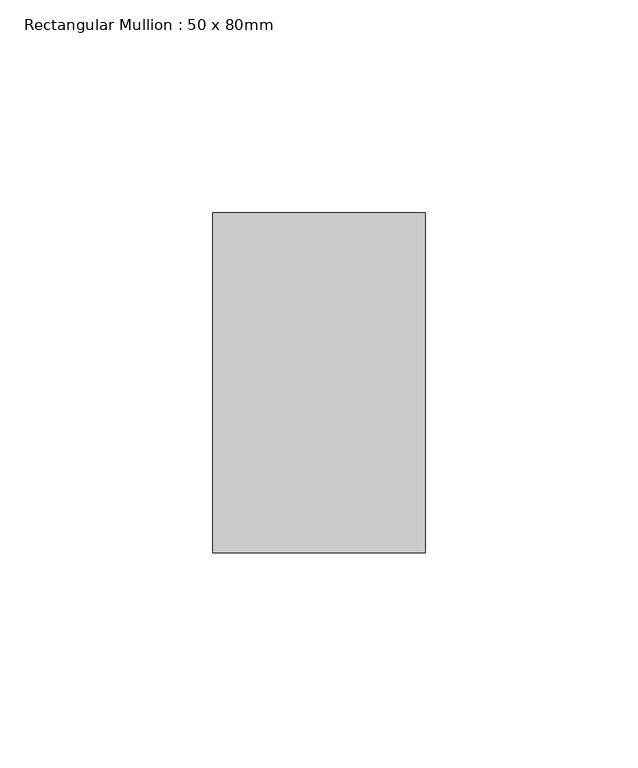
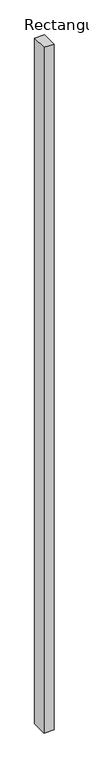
"""IFC4 building model written with IfcOpenShell, lengths in millimetres: member geometry, Rectangular Mullion : 50 x 80mm."""

from ifc_helpers import new_model, si_unit, frame, origin, place, context, project, spatial, polyline, outline, extrude, source, transform, mapped, element, save


def rectangular_mullion_50_x_80mm_78f80b50(model_context):
    return source(origin(), model_context, "Body", "SweptSolid", [
        extrude(outline(polyline([(0.0, 25.0), (0.0, -55.0), (-50.0, -55.0), (-50.0, 25.0), (0.0, 25.0)])), frame((0.0, 0.0, -3620.0), z_axis=(0.0, 0.0, 1.0), x_axis=(1.0, 0.0, 0.0)), (0.0, 0.0, 1.0), 3620.0),
    ])


if __name__ == "__main__":
    model = new_model("IFC4")
    model_context = context("Model", 3, world=origin())
    ifc_project = project(units=[si_unit("LENGTHUNIT", "METRE", prefix="MILLI")], contexts=[model_context])
    site = spatial("IfcSite", under=ifc_project)
    building = spatial("IfcBuilding", under=site)
    placement = place(None, origin())
    rectangular_mullion_50_x_80mm_shape = rectangular_mullion_50_x_80mm_78f80b50(model_context)
    element("IfcMember", 1, ObjectType="Rectangular Mullion : 50 x 80mm", at=placement, inside=building, context=model_context, shape_type="MappedRepresentation", body=[
        mapped(rectangular_mullion_50_x_80mm_shape, transform((0.0, 0.0, 0.0), x_axis=(1.0, 0.0, 0.0), y_axis=(0.0, 1.0, 0.0), z_axis=(0.0, 0.0, 1.0))),
    ])
    save(model, "model.ifc")
